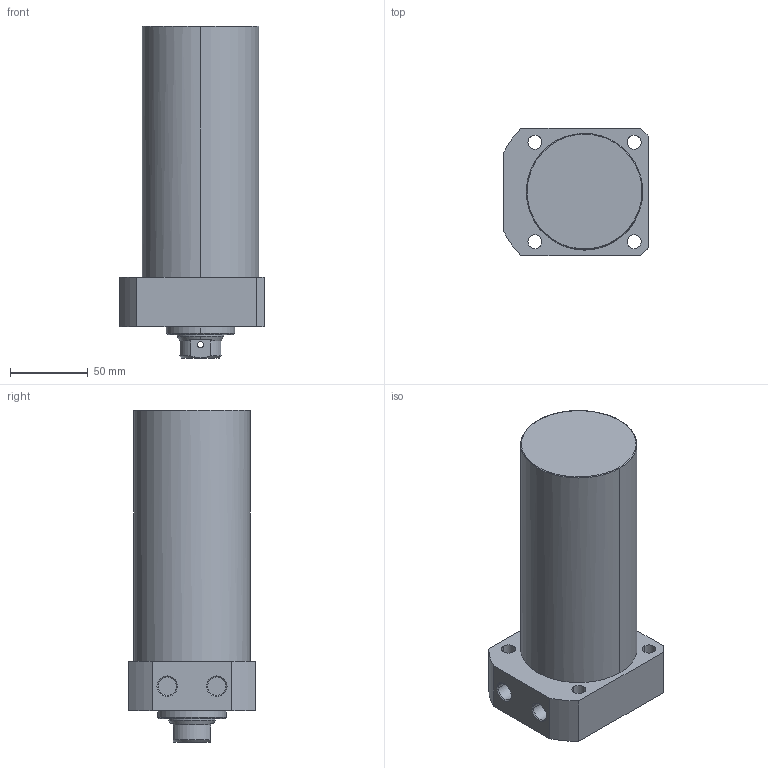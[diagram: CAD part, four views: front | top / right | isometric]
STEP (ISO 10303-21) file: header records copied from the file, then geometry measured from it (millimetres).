
FILE_DESCRIPTION((' '),'2;1');
FILE_NAME( 'TLLR-075CB-125.STEP.stp', '2025-10-24T16:35:09', (' '), ('--- Datakit www.datakit.com---'), ' Datakit CrossCadWare V2024.1 Dec 21 2023', 'Mastercam 2025', ' ');
FILE_SCHEMA(('AUTOMOTIVE_DESIGN { 1 0 10303 214 1 1 1 1 }'));
Length unit declared in the file: millimetre
Products named in the file (1): TLLR-075CB-125
Bounding box: 93 x 82 x 214 mm (x, y, z)
Volume: 950666.8 mm3; surface area: 71910.4 mm2
Topology: 1 solids, 1 shells, 67 faces, 197 edges, 136 vertices
Faces by surface type: cylinder 32, plane 19, cone 14, torus 2
Entity records: 3386 total; most frequent: CARTESIAN_POINT 1467, DIRECTION 426, ORIENTED_EDGE 390, EDGE_CURVE 195, AXIS2_PLACEMENT_3D 179, VERTEX_POINT 136, CIRCLE 111, EDGE_LOOP 85
